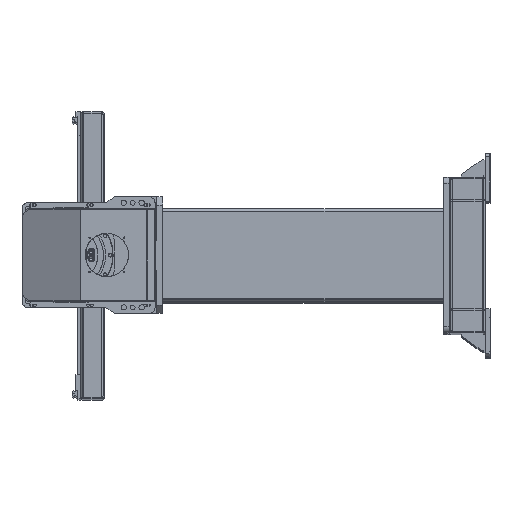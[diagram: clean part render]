
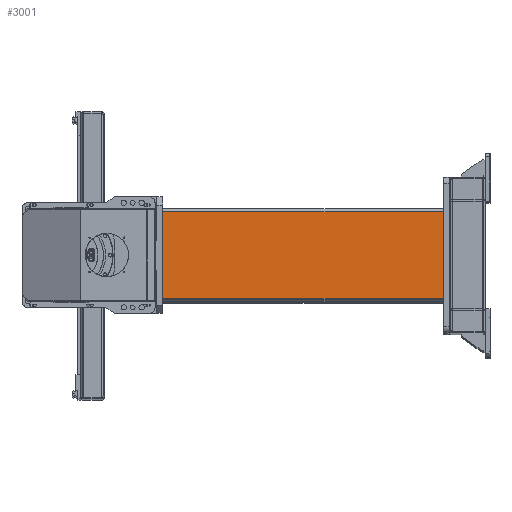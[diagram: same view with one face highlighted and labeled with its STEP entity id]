
A CAD part, top view. The second image highlights one B-rep face of the part: STEP entity #3001.
In plain terms, the highlighted planar face has unit normal (0, 0, 1).
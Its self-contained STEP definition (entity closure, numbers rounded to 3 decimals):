
#2974=AXIS2_PLACEMENT_3D('Plane Axis2P3D',#2971,#2972,#2973) ;
#2948=CARTESIAN_POINT('Vertex',(-19.933,-324.893,3640.)) ;
#2951=CARTESIAN_POINT('Line Origine',(-489.683,-324.893,3640.)) ;
#2955=CARTESIAN_POINT('Vertex',(-959.433,-324.893,3640.)) ;
#2971=CARTESIAN_POINT('Axis2P3D Location',(-19.933,-324.893,3640.)) ;
#2976=CARTESIAN_POINT('Line Origine',(-19.933,-179.893,3640.)) ;
#2980=CARTESIAN_POINT('Vertex',(-19.933,-34.893,3640.)) ;
#2983=CARTESIAN_POINT('Line Origine',(-489.683,-34.893,3640.)) ;
#2987=CARTESIAN_POINT('Vertex',(-959.433,-34.893,3640.)) ;
#2990=CARTESIAN_POINT('Line Origine',(-959.433,-179.893,3640.)) ;
#2952=DIRECTION('Vector Direction',(-1.,0.,0.)) ;
#2972=DIRECTION('Axis2P3D Direction',(0.,-0.,1.)) ;
#2973=DIRECTION('Axis2P3D XDirection',(0.,1.,0.)) ;
#2977=DIRECTION('Vector Direction',(0.,1.,0.)) ;
#2984=DIRECTION('Vector Direction',(-1.,0.,0.)) ;
#2991=DIRECTION('Vector Direction',(0.,1.,0.)) ;
#2953=VECTOR('Line Direction',#2952,1.) ;
#2978=VECTOR('Line Direction',#2977,1.) ;
#2985=VECTOR('Line Direction',#2984,1.) ;
#2992=VECTOR('Line Direction',#2991,1.) ;
#2996=ORIENTED_EDGE('',*,*,#2957,.F.) ;
#2997=ORIENTED_EDGE('',*,*,#2982,.T.) ;
#2998=ORIENTED_EDGE('',*,*,#2989,.T.) ;
#2999=ORIENTED_EDGE('',*,*,#2994,.F.) ;
#3001=ADVANCED_FACE('\X2\96F64EF651E04F554F53\X0\',(#3000),#2975,.T.) ;
#2957=EDGE_CURVE('',#2949,#2956,#2954,.T.) ;
#2982=EDGE_CURVE('',#2949,#2981,#2979,.T.) ;
#2989=EDGE_CURVE('',#2981,#2988,#2986,.T.) ;
#2994=EDGE_CURVE('',#2956,#2988,#2993,.T.) ;
#2995=EDGE_LOOP('',(#2996,#2997,#2998,#2999)) ;
#3000=FACE_OUTER_BOUND('',#2995,.T.) ;
#2954=LINE('Line',#2951,#2953) ;
#2979=LINE('Line',#2976,#2978) ;
#2986=LINE('Line',#2983,#2985) ;
#2993=LINE('Line',#2990,#2992) ;
#2975=PLANE('',#2974) ;
#2949=VERTEX_POINT('',#2948) ;
#2956=VERTEX_POINT('',#2955) ;
#2981=VERTEX_POINT('',#2980) ;
#2988=VERTEX_POINT('',#2987) ;
